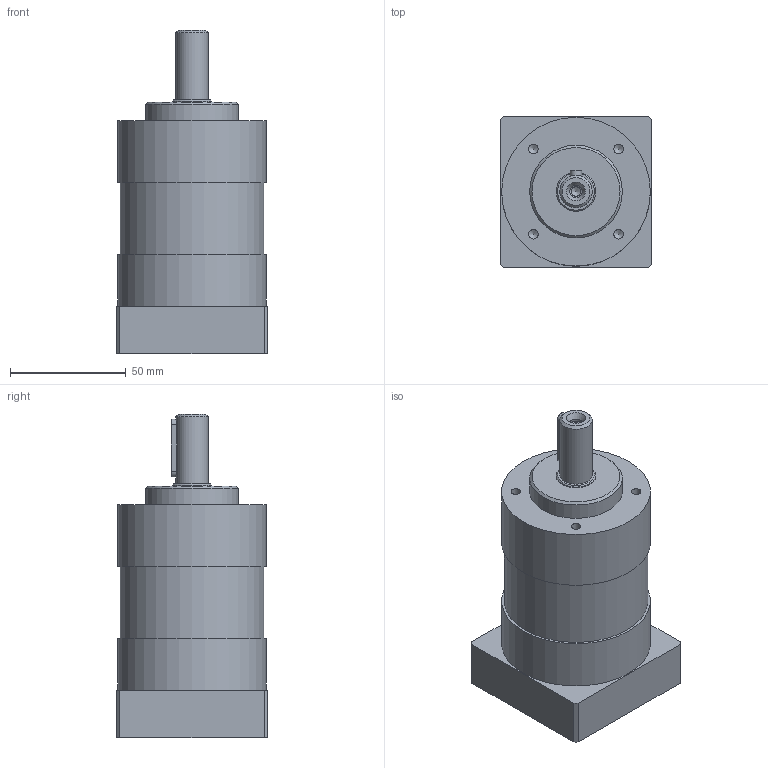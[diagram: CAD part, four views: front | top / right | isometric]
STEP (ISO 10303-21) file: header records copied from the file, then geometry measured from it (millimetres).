
FILE_DESCRIPTION((''),'2;1');
FILE_NAME('G:\Eisele\Internetzeichnungen\3D\EPL64\fertig\step\EPL064_2_9x23_40640431_Z40Tk65_4xM5Vk65_stp.stp','2011-08-31T18:52:26',('Mario'),(''),'Autodesk Inventor 2011','Autodesk Inventor 2011','');
FILE_SCHEMA(('AUTOMOTIVE_DESIGN { 1 0 10303 214 1 1 1 1 }'));
Length unit declared in the file: millimetre
Products named in the file (1): EPL064_2_9x23_40640431_Z40Tk65_4xM5Vk65
Bounding box: 65 x 65 x 139.5 mm (x, y, z)
Volume: 346688 mm3; surface area: 35469.8 mm2
Topology: 1 solids, 1 shells, 57 faces, 122 edges, 77 vertices
Faces by surface type: cylinder 24, plane 18, cone 15
Full cylindrical faces by diameter (mm): 4.134 x9, 5.3 x1, 9 x1, 14 x1, 17 x1, 40 x2, 62 x1, 64.2 x2
Entity records: 1336 total; most frequent: DIRECTION 244, CARTESIAN_POINT 236, ORIENTED_EDGE 156, AXIS2_PLACEMENT_3D 110, EDGE_LOOP 100, EDGE_CURVE 78, VERTEX_POINT 66, FACE_OUTER_BOUND 57
